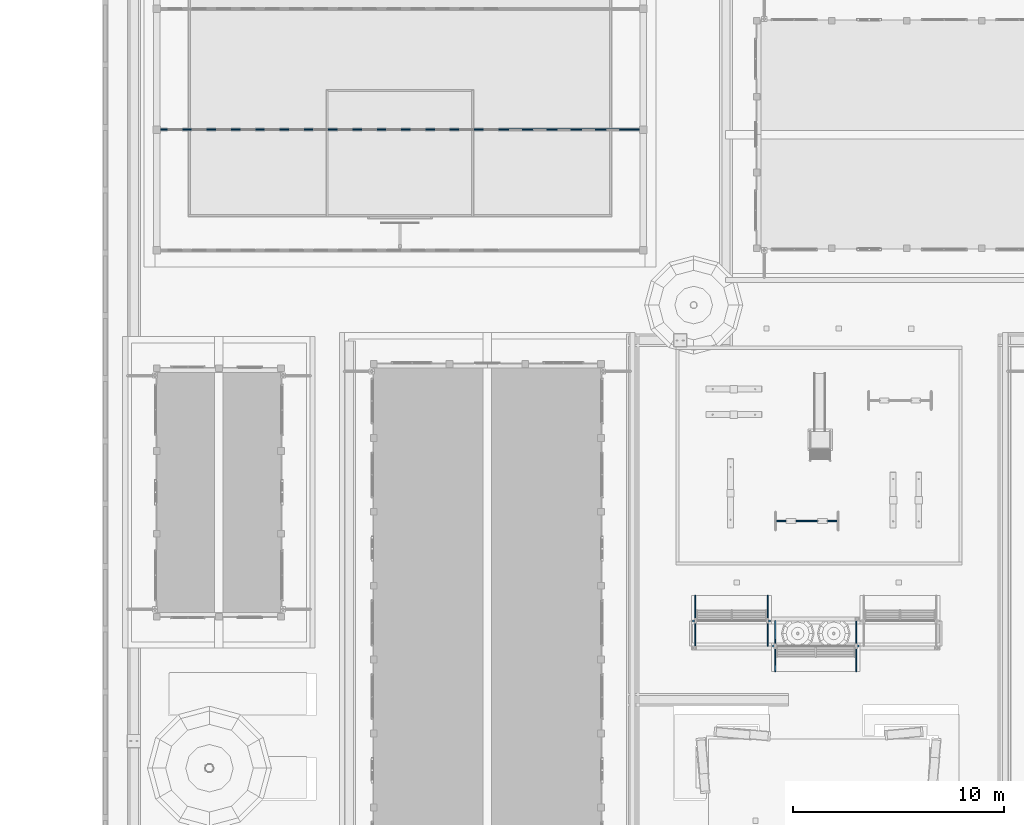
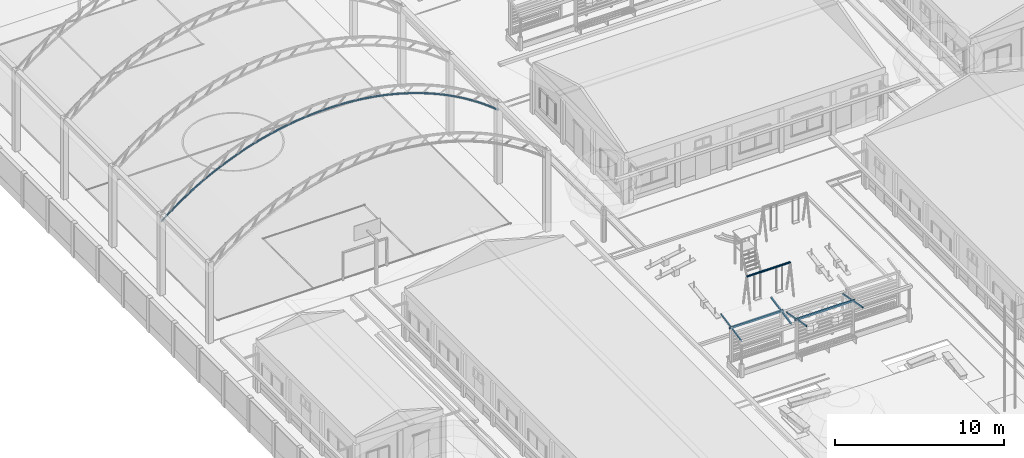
# One storey, part 20 of 177: 8 beams.
"""IFC4 building model written with IfcOpenShell, lengths in metres."""

from ifc_helpers import new_model, si_unit, origin, origin_with_axes, place, context, subcontext, project, spatial, triangles, element, save


model = new_model("IFC4")

# Units and contexts
model_context = context("Model", 3, precision=1e-05, world=origin_with_axes())
body_context = subcontext(model_context, "Body", "Model", "MODEL_VIEW")
ifc_project = project(units=[si_unit("LENGTHUNIT", "METRE"), si_unit("AREAUNIT", "SQUARE_METRE"), si_unit("VOLUMEUNIT", "CUBIC_METRE"), si_unit("PLANEANGLEUNIT", "RADIAN")], contexts=[model_context])

# Site, building, storey
site_placement = place(None, origin_with_axes())
site = spatial("IfcSite", under=ifc_project, at=site_placement, Name="Predio Los Mangos - Morales, San Martín", CompositionType="ELEMENT")
building_placement = place(site_placement, origin())
building = spatial("IfcBuilding", under=site, at=building_placement, Name="Hogar de Refugio Temporal", CompositionType="ELEMENT")
storey_placement = place(building_placement, origin())
storey = spatial("IfcBuildingStorey", under=building, at=storey_placement, Name="NIVEL 1 (NPT +0.00)", CompositionType="ELEMENT", Elevation=0.0)

# Beams
beam_1_placement = place(storey_placement, origin())
element("IfcBeam", 1, at=beam_1_placement, inside=storey, Name="arco", ObjectType="Viga", PredefinedType="BEAM", context=body_context, shape_type="Tessellation", body=[
    triangles([(3.4843, 98.3766, 5.3695), (3.4729, 98.3583, 5.3838), (3.4687, 98.3333, 5.389), (3.4729, 98.3083, 5.3838), (3.4843, 98.29, 5.3695), (3.5, 98.2833, 5.35), (3.5157, 98.29, 5.3305), (3.5271, 98.3083, 5.3162), (3.5313, 98.3333, 5.311), (3.5271, 98.3583, 5.3162), (3.5157, 98.3766, 5.3305), (3.5, 98.3833, 5.35), (4.0622, 98.3766, 5.8339), (4.0511, 98.3583, 5.8484), (4.047, 98.3333, 5.8537), (4.0511, 98.3083, 5.8484), (4.0622, 98.29, 5.8339), (4.0775, 98.2833, 5.8141), (4.0928, 98.29, 5.7943), (4.1039, 98.3083, 5.7798), (4.108, 98.3333, 5.7745), (4.1039, 98.3583, 5.7798), (4.0928, 98.3766, 5.7943), (4.0775, 98.3833, 5.8141), (4.6405, 98.3766, 6.2612), (4.63, 98.3583, 6.2761), (4.6261, 98.3333, 6.2816), (4.63, 98.3083, 6.2761), (4.6405, 98.29, 6.2612), (4.655, 98.2833, 6.2408), (4.6695, 98.29, 6.2204), (4.68, 98.3083, 6.2055), (4.6839, 98.3333, 6.2), (4.68, 98.3583, 6.2055), (4.6695, 98.3766, 6.2204), (4.655, 98.3833, 6.2408), (5.2188, 98.3766, 6.6543), (5.2088, 98.3583, 6.6696), (5.2052, 98.3333, 6.6752), (5.2088, 98.3083, 6.6696), (5.2188, 98.29, 6.6543), (5.2325, 98.2833, 6.6333), (5.2462, 98.29, 6.6124), (5.2562, 98.3083, 6.5971), (5.2598, 98.3333, 6.5915), (5.2562, 98.3583, 6.5971), (5.2462, 98.3766, 6.6124), (5.2325, 98.3833, 6.6333), (5.7971, 98.3766, 7.0157), (5.7877, 98.3583, 7.0314), (5.7843, 98.3333, 7.0372), (5.7877, 98.3083, 7.0314), (5.7971, 98.29, 7.0157), (5.81, 98.2833, 6.9943), (5.8229, 98.29, 6.9729), (5.8323, 98.3083, 6.9572), (5.8357, 98.3333, 6.9514), (5.8323, 98.3583, 6.9572), (5.8229, 98.3766, 6.9729), (5.81, 98.3833, 6.9943), (6.3755, 98.3766, 7.3478), (6.3666, 98.3583, 7.3638), (6.3634, 98.3333, 7.3697), (6.3666, 98.3083, 7.3638), (6.3755, 98.29, 7.3478), (6.3875, 98.2833, 7.3259), (6.3995, 98.29, 7.304), (6.4084, 98.3083, 7.2879), (6.4116, 98.3333, 7.282), (6.4084, 98.3583, 7.2879), (6.3995, 98.3766, 7.304), (6.3875, 98.3833, 7.3259), (6.9538, 98.3766, 7.6522), (6.9455, 98.3583, 7.6685), (6.9425, 98.3333, 7.6745), (6.9455, 98.3083, 7.6685), (6.9538, 98.29, 7.6522), (6.965, 98.2833, 7.6298), (6.9762, 98.29, 7.6075), (6.9845, 98.3083, 7.5912), (6.9875, 98.3333, 7.5852), (6.9845, 98.3583, 7.5912), (6.9762, 98.3766, 7.6075), (6.965, 98.3833, 7.6298), (7.5321, 98.3766, 7.9305), (7.5244, 98.3583, 7.9471), (7.5216, 98.3333, 7.9532), (7.5244, 98.3083, 7.9471), (7.5321, 98.29, 7.9305), (7.5425, 98.2833, 7.9077), (7.5529, 98.29, 7.885), (7.5606, 98.3083, 7.8684), (7.5634, 98.3333, 7.8623), (7.5606, 98.3583, 7.8684), (7.5529, 98.3766, 7.885), (7.5425, 98.3833, 7.9077), (8.1104, 98.3766, 8.184), (8.1033, 98.3583, 8.2009), (8.1007, 98.3333, 8.2071), (8.1033, 98.3083, 8.2009), (8.1104, 98.29, 8.184), (8.12, 98.2833, 8.1609), (8.1296, 98.29, 8.1379), (8.1367, 98.3083, 8.121), (8.1393, 98.3333, 8.1148), (8.1367, 98.3583, 8.121), (8.1296, 98.3766, 8.1379), (8.12, 98.3833, 8.1609), (8.6887, 98.3766, 8.4139), (8.6822, 98.3583, 8.431), (8.6798, 98.3333, 8.4373), (8.6822, 98.3083, 8.431), (8.6887, 98.29, 8.4139), (8.6975, 98.2833, 8.3905), (8.7063, 98.29, 8.3671), (8.7128, 98.3083, 8.35), (8.7152, 98.3333, 8.3437), (8.7128, 98.3583, 8.35), (8.7063, 98.3766, 8.3671), (8.6975, 98.3833, 8.3905), (9.267, 98.3766, 8.6211), (9.2611, 98.3583, 8.6384), (9.2589, 98.3333, 8.6447), (9.2611, 98.3083, 8.6384), (9.267, 98.29, 8.6211), (9.275, 98.2833, 8.5974), (9.283, 98.29, 8.5737), (9.2889, 98.3083, 8.5564), (9.2911, 98.3333, 8.55), (9.2889, 98.3583, 8.5564), (9.283, 98.3766, 8.5737), (9.275, 98.3833, 8.5974), (9.8453, 98.3766, 8.8064), (9.84, 98.3583, 8.8239), (9.838, 98.3333, 8.8303), (9.84, 98.3083, 8.8239), (9.8453, 98.29, 8.8064), (9.8525, 98.2833, 8.7824), (9.8597, 98.29, 8.7585), (9.865, 98.3083, 8.741), (9.867, 98.3333, 8.7346), (9.865, 98.3583, 8.741), (9.8597, 98.3766, 8.7585), (9.8525, 98.3833, 8.7824), (10.4236, 98.3766, 8.9705), (10.4189, 98.3583, 8.9882), (10.4172, 98.3333, 8.9947), (10.4189, 98.3083, 8.9882), (10.4236, 98.29, 8.9705), (10.43, 98.2833, 8.9463), (10.4364, 98.29, 8.9222), (10.4411, 98.3083, 8.9045), (10.4429, 98.3333, 8.898), (10.4411, 98.3583, 8.9045), (10.4364, 98.3766, 8.9222), (10.43, 98.3833, 8.9463), (11.0019, 98.3766, 9.1141), (10.9978, 98.3583, 9.1319), (10.9963, 98.3333, 9.1384), (10.9978, 98.3083, 9.1319), (11.0019, 98.29, 9.1141), (11.0075, 98.2833, 9.0897), (11.0131, 98.29, 9.0653), (11.0172, 98.3083, 9.0475), (11.0187, 98.3333, 9.041), (11.0172, 98.3583, 9.0475), (11.0131, 98.3766, 9.0653), (11.0075, 98.3833, 9.0897), (11.5802, 98.3766, 9.2375), (11.5767, 98.3583, 9.2555), (11.5754, 98.3333, 9.2621), (11.5767, 98.3083, 9.2555), (11.5802, 98.29, 9.2375), (11.585, 98.2833, 9.213), (11.5898, 98.29, 9.1885), (11.5933, 98.3083, 9.1705), (11.5946, 98.3333, 9.1639), (11.5933, 98.3583, 9.1705), (11.5898, 98.3766, 9.1885), (11.585, 98.3833, 9.213), (12.1585, 98.3766, 9.3413), (12.1555, 98.3583, 9.3594), (12.1545, 98.3333, 9.366), (12.1555, 98.3083, 9.3594), (12.1585, 98.29, 9.3413), (12.1625, 98.2833, 9.3166), (12.1665, 98.29, 9.292), (12.1695, 98.3083, 9.2739), (12.1705, 98.3333, 9.2673), (12.1695, 98.3583, 9.2739), (12.1665, 98.3766, 9.292), (12.1625, 98.3833, 9.3166), (12.7368, 98.3766, 9.4258), (12.7344, 98.3583, 9.4439), (12.7336, 98.3333, 9.4506), (12.7344, 98.3083, 9.4439), (12.7368, 98.29, 9.4258), (12.74, 98.2833, 9.401), (12.7432, 98.29, 9.3762), (12.7456, 98.3083, 9.3581), (12.7464, 98.3333, 9.3514), (12.7456, 98.3583, 9.3581), (12.7432, 98.3766, 9.3762), (12.74, 98.3833, 9.401), (13.3151, 98.3766, 9.4912), (13.3133, 98.3583, 9.5094), (13.3127, 98.3333, 9.5161), (13.3133, 98.3083, 9.5094), (13.3151, 98.29, 9.4912), (13.3175, 98.2833, 9.4663), (13.3199, 98.29, 9.4415), (13.3217, 98.3083, 9.4232), (13.3223, 98.3333, 9.4166), (13.3217, 98.3583, 9.4232), (13.3199, 98.3766, 9.4415), (13.3175, 98.3833, 9.4663), (13.8934, 98.3766, 9.5378), (13.8922, 98.3583, 9.5561), (13.8918, 98.3333, 9.5628), (13.8922, 98.3083, 9.5561), (13.8934, 98.29, 9.5378), (13.895, 98.2833, 9.5129), (13.8966, 98.29, 9.4879), (13.8978, 98.3083, 9.4697), (13.8982, 98.3333, 9.463), (13.8978, 98.3583, 9.4697), (13.8966, 98.3766, 9.4879), (13.895, 98.3833, 9.5129), (14.4717, 98.3766, 9.5657), (14.4711, 98.3583, 9.584), (14.4709, 98.3333, 9.5907), (14.4711, 98.3083, 9.584), (14.4717, 98.29, 9.5657), (14.4725, 98.2833, 9.5407), (14.4733, 98.29, 9.5157), (14.4739, 98.3083, 9.4974), (14.4741, 98.3333, 9.4907), (14.4739, 98.3583, 9.4974), (14.4733, 98.3766, 9.5157), (14.4725, 98.3833, 9.5407), (15.05, 98.3766, 9.575), (15.05, 98.3583, 9.5933), (15.05, 98.3333, 9.6), (15.05, 98.3083, 9.5933), (15.05, 98.29, 9.575), (15.05, 98.2833, 9.55), (15.05, 98.29, 9.525), (15.05, 98.3083, 9.5067), (15.05, 98.3333, 9.5), (15.05, 98.3583, 9.5067), (15.05, 98.3766, 9.525), (15.05, 98.3833, 9.55), (15.6283, 98.3766, 9.5657), (15.6289, 98.3583, 9.584), (15.6291, 98.3333, 9.5907), (15.6289, 98.3083, 9.584), (15.6283, 98.29, 9.5657), (15.6275, 98.2833, 9.5407), (15.6267, 98.29, 9.5157), (15.6261, 98.3083, 9.4974), (15.6259, 98.3333, 9.4907), (15.6261, 98.3583, 9.4974), (15.6267, 98.3766, 9.5157), (15.6275, 98.3833, 9.5407), (16.2066, 98.3766, 9.5378), (16.2078, 98.3583, 9.5561), (16.2082, 98.3333, 9.5628), (16.2078, 98.3083, 9.5561), (16.2066, 98.29, 9.5378), (16.205, 98.2833, 9.5129), (16.2034, 98.29, 9.4879), (16.2022, 98.3083, 9.4697), (16.2018, 98.3333, 9.463), (16.2022, 98.3583, 9.4697), (16.2034, 98.3766, 9.4879), (16.205, 98.3833, 9.5129), (16.7849, 98.3766, 9.4912), (16.7867, 98.3583, 9.5094), (16.7873, 98.3333, 9.5161), (16.7867, 98.3083, 9.5094), (16.7849, 98.29, 9.4912), (16.7825, 98.2833, 9.4663), (16.7801, 98.29, 9.4415), (16.7783, 98.3083, 9.4232), (16.7777, 98.3333, 9.4166), (16.7783, 98.3583, 9.4232), (16.7801, 98.3766, 9.4415), (16.7825, 98.3833, 9.4663), (17.3632, 98.3766, 9.4258), (17.3656, 98.3583, 9.4439), (17.3664, 98.3333, 9.4506), (17.3656, 98.3083, 9.4439), (17.3632, 98.29, 9.4258), (17.36, 98.2833, 9.401), (17.3568, 98.29, 9.3762), (17.3544, 98.3083, 9.3581), (17.3536, 98.3333, 9.3514), (17.3544, 98.3583, 9.3581), (17.3568, 98.3766, 9.3762), (17.36, 98.3833, 9.401), (17.9415, 98.3766, 9.3413), (17.9445, 98.3583, 9.3594), (17.9455, 98.3333, 9.366), (17.9445, 98.3083, 9.3594), (17.9415, 98.29, 9.3413), (17.9375, 98.2833, 9.3166), (17.9335, 98.29, 9.292), (17.9305, 98.3083, 9.2739), (17.9295, 98.3333, 9.2673), (17.9305, 98.3583, 9.2739), (17.9335, 98.3766, 9.292), (17.9375, 98.3833, 9.3166), (18.5198, 98.3766, 9.2375), (18.5233, 98.3583, 9.2555), (18.5246, 98.3333, 9.2621), (18.5233, 98.3083, 9.2555), (18.5198, 98.29, 9.2375), (18.515, 98.2833, 9.213), (18.5102, 98.29, 9.1885), (18.5067, 98.3083, 9.1705), (18.5054, 98.3333, 9.1639), (18.5067, 98.3583, 9.1705), (18.5102, 98.3766, 9.1885), (18.515, 98.3833, 9.213), (19.0981, 98.3766, 9.1141), (19.1022, 98.3583, 9.1319), (19.1037, 98.3333, 9.1384), (19.1022, 98.3083, 9.1319), (19.0981, 98.29, 9.1141), (19.0925, 98.2833, 9.0897), (19.0869, 98.29, 9.0653), (19.0828, 98.3083, 9.0475), (19.0813, 98.3333, 9.041), (19.0828, 98.3583, 9.0475), (19.0869, 98.3766, 9.0653), (19.0925, 98.3833, 9.0897), (19.6764, 98.3766, 8.9705), (19.6811, 98.3583, 8.9882), (19.6828, 98.3333, 8.9947), (19.6811, 98.3083, 8.9882), (19.6764, 98.29, 8.9705), (19.67, 98.2833, 8.9463), (19.6636, 98.29, 8.9222), (19.6589, 98.3083, 8.9045), (19.6572, 98.3333, 8.898), (19.6589, 98.3583, 8.9045), (19.6636, 98.3766, 8.9222), (19.67, 98.3833, 8.9463), (20.2547, 98.3766, 8.8064), (20.26, 98.3583, 8.8239), (20.262, 98.3333, 8.8303), (20.26, 98.3083, 8.8239), (20.2547, 98.29, 8.8064), (20.2475, 98.2833, 8.7824), (20.2403, 98.29, 8.7585), (20.235, 98.3083, 8.741), (20.233, 98.3333, 8.7346), (20.235, 98.3583, 8.741), (20.2403, 98.3766, 8.7585), (20.2475, 98.3833, 8.7824), (20.833, 98.3766, 8.6211), (20.8389, 98.3583, 8.6384), (20.8411, 98.3333, 8.6447), (20.8389, 98.3083, 8.6384), (20.833, 98.29, 8.6211), (20.825, 98.2833, 8.5974), (20.817, 98.29, 8.5737), (20.8111, 98.3083, 8.5564), (20.8089, 98.3333, 8.55), (20.8111, 98.3583, 8.5564), (20.817, 98.3766, 8.5737), (20.825, 98.3833, 8.5974), (21.4113, 98.3766, 8.4139), (21.4178, 98.3583, 8.431), (21.4202, 98.3333, 8.4373), (21.4178, 98.3083, 8.431), (21.4113, 98.29, 8.4139), (21.4025, 98.2833, 8.3905), (21.3937, 98.29, 8.3671), (21.3872, 98.3083, 8.35), (21.3848, 98.3333, 8.3437), (21.3872, 98.3583, 8.35), (21.3937, 98.3766, 8.3671), (21.4025, 98.3833, 8.3905), (21.9896, 98.3766, 8.184), (21.9967, 98.3583, 8.2009), (21.9993, 98.3333, 8.2071), (21.9967, 98.3083, 8.2009), (21.9896, 98.29, 8.184), (21.98, 98.2833, 8.1609), (21.9704, 98.29, 8.1379), (21.9633, 98.3083, 8.121), (21.9607, 98.3333, 8.1148), (21.9633, 98.3583, 8.121), (21.9704, 98.3766, 8.1379), (21.98, 98.3833, 8.1609), (22.5679, 98.3766, 7.9305), (22.5756, 98.3583, 7.9471), (22.5784, 98.3333, 7.9532), (22.5756, 98.3083, 7.9471), (22.5679, 98.29, 7.9305), (22.5575, 98.2833, 7.9077), (22.5471, 98.29, 7.885), (22.5394, 98.3083, 7.8684), (22.5366, 98.3333, 7.8623), (22.5394, 98.3583, 7.8684), (22.5471, 98.3766, 7.885), (22.5575, 98.3833, 7.9077), (23.1462, 98.3766, 7.6522), (23.1545, 98.3583, 7.6685), (23.1575, 98.3333, 7.6745), (23.1545, 98.3083, 7.6685), (23.1462, 98.29, 7.6522), (23.135, 98.2833, 7.6298), (23.1238, 98.29, 7.6075), (23.1155, 98.3083, 7.5912), (23.1125, 98.3333, 7.5852), (23.1155, 98.3583, 7.5912), (23.1238, 98.3766, 7.6075), (23.135, 98.3833, 7.6298), (23.7245, 98.3766, 7.3478), (23.7334, 98.3583, 7.3638), (23.7366, 98.3333, 7.3697), (23.7334, 98.3083, 7.3638), (23.7245, 98.29, 7.3478), (23.7125, 98.2833, 7.3259), (23.7005, 98.29, 7.304), (23.6916, 98.3083, 7.2879), (23.6884, 98.3333, 7.282), (23.6916, 98.3583, 7.2879), (23.7005, 98.3766, 7.304), (23.7125, 98.3833, 7.3259), (24.3029, 98.3766, 7.0157), (24.3123, 98.3583, 7.0314), (24.3157, 98.3333, 7.0372), (24.3123, 98.3083, 7.0314), (24.3029, 98.29, 7.0157), (24.29, 98.2833, 6.9943), (24.2771, 98.29, 6.9729), (24.2677, 98.3083, 6.9572), (24.2643, 98.3333, 6.9514), (24.2677, 98.3583, 6.9572), (24.2771, 98.3766, 6.9729), (24.29, 98.3833, 6.9943), (24.8812, 98.3766, 6.6543), (24.8912, 98.3583, 6.6696), (24.8948, 98.3333, 6.6752), (24.8912, 98.3083, 6.6696), (24.8812, 98.29, 6.6543), (24.8675, 98.2833, 6.6333), (24.8538, 98.29, 6.6124), (24.8438, 98.3083, 6.5971), (24.8402, 98.3333, 6.5915), (24.8438, 98.3583, 6.5971), (24.8538, 98.3766, 6.6124), (24.8675, 98.3833, 6.6333), (25.4595, 98.3766, 6.2612), (25.47, 98.3583, 6.2761), (25.4739, 98.3333, 6.2816), (25.47, 98.3083, 6.2761), (25.4595, 98.29, 6.2612), (25.445, 98.2833, 6.2408), (25.4305, 98.29, 6.2204), (25.42, 98.3083, 6.2055), (25.4161, 98.3333, 6.2), (25.42, 98.3583, 6.2055), (25.4305, 98.3766, 6.2204), (25.445, 98.3833, 6.2408), (26.0378, 98.3766, 5.8339), (26.0489, 98.3583, 5.8484), (26.053, 98.3333, 5.8537), (26.0489, 98.3083, 5.8484), (26.0378, 98.29, 5.8339), (26.0225, 98.2833, 5.8141), (26.0072, 98.29, 5.7943), (25.9961, 98.3083, 5.7798), (25.992, 98.3333, 5.7745), (25.9961, 98.3583, 5.7798), (26.0072, 98.3766, 5.7943), (26.0225, 98.3833, 5.8141), (26.6157, 98.3766, 5.3695), (26.6271, 98.3583, 5.3838), (26.6313, 98.3333, 5.389), (26.6271, 98.3083, 5.3838), (26.6157, 98.29, 5.3695), (26.6, 98.2833, 5.35), (26.5843, 98.29, 5.3305), (26.5729, 98.3083, 5.3162), (26.5687, 98.3333, 5.311), (26.5729, 98.3583, 5.3162), (26.5843, 98.3766, 5.3305), (26.6, 98.3833, 5.35)], [[1, 13, 24], [1, 24, 12], [2, 14, 13], [2, 13, 1], [3, 15, 14], [3, 14, 2], [4, 16, 15], [4, 15, 3], [5, 17, 16], [5, 16, 4], [6, 18, 17], [6, 17, 5], [7, 19, 18], [7, 18, 6], [8, 20, 19], [8, 19, 7], [9, 21, 20], [9, 20, 8], [10, 22, 21], [10, 21, 9], [11, 23, 22], [11, 22, 10], [12, 24, 23], [12, 23, 11], [13, 25, 36], [13, 36, 24], [14, 26, 25], [14, 25, 13], [15, 27, 26], [15, 26, 14], [16, 28, 27], [16, 27, 15], [17, 29, 28], [17, 28, 16], [18, 30, 29], [18, 29, 17], [19, 31, 30], [19, 30, 18], [20, 32, 31], [20, 31, 19], [21, 33, 32], [21, 32, 20], [22, 34, 33], [22, 33, 21], [23, 35, 34], [23, 34, 22], [24, 36, 35], [24, 35, 23], [25, 37, 48], [25, 48, 36], [26, 38, 37], [26, 37, 25], [27, 39, 38], [27, 38, 26], [28, 40, 39], [28, 39, 27], [29, 41, 40], [29, 40, 28], [30, 42, 41], [30, 41, 29], [31, 43, 42], [31, 42, 30], [32, 44, 43], [32, 43, 31], [33, 45, 44], [33, 44, 32], [34, 46, 45], [34, 45, 33], [35, 47, 46], [35, 46, 34], [36, 48, 47], [36, 47, 35], [37, 49, 60], [37, 60, 48], [38, 50, 49], [38, 49, 37], [39, 51, 50], [39, 50, 38], [40, 52, 51], [40, 51, 39], [41, 53, 52], [41, 52, 40], [42, 54, 53], [42, 53, 41], [43, 55, 54], [43, 54, 42], [44, 56, 55], [44, 55, 43], [45, 57, 56], [45, 56, 44], [46, 58, 57], [46, 57, 45], [47, 59, 58], [47, 58, 46], [48, 60, 59], [48, 59, 47], [49, 61, 72], [49, 72, 60], [50, 62, 61], [50, 61, 49], [51, 63, 62], [51, 62, 50], [52, 64, 63], [52, 63, 51], [53, 65, 64], [53, 64, 52], [54, 66, 65], [54, 65, 53], [55, 67, 66], [55, 66, 54], [56, 68, 67], [56, 67, 55], [57, 69, 68], [57, 68, 56], [58, 70, 69], [58, 69, 57], [59, 71, 70], [59, 70, 58], [60, 72, 71], [60, 71, 59], [61, 73, 84], [61, 84, 72], [62, 74, 73], [62, 73, 61], [63, 75, 74], [63, 74, 62], [64, 76, 75], [64, 75, 63], [65, 77, 76], [65, 76, 64], [66, 78, 77], [66, 77, 65], [67, 79, 78], [67, 78, 66], [68, 80, 79], [68, 79, 67], [69, 81, 80], [69, 80, 68], [70, 82, 81], [70, 81, 69], [71, 83, 82], [71, 82, 70], [72, 84, 83], [72, 83, 71], [73, 85, 96], [73, 96, 84], [74, 86, 85], [74, 85, 73], [75, 87, 86], [75, 86, 74], [76, 88, 87], [76, 87, 75], [77, 89, 88], [77, 88, 76], [78, 90, 89], [78, 89, 77], [79, 91, 90], [79, 90, 78], [80, 92, 91], [80, 91, 79], [81, 93, 92], [81, 92, 80], [82, 94, 93], [82, 93, 81], [83, 95, 94], [83, 94, 82], [84, 96, 95], [84, 95, 83], [85, 97, 108], [85, 108, 96], [86, 98, 97], [86, 97, 85], [87, 99, 98], [87, 98, 86], [88, 100, 99], [88, 99, 87], [89, 101, 100], [89, 100, 88], [90, 102, 101], [90, 101, 89], [91, 103, 102], [91, 102, 90], [92, 104, 103], [92, 103, 91], [93, 105, 104], [93, 104, 92], [94, 106, 105], [94, 105, 93], [95, 107, 106], [95, 106, 94], [96, 108, 107], [96, 107, 95], [97, 109, 120], [97, 120, 108], [98, 110, 109], [98, 109, 97], [99, 111, 110], [99, 110, 98], [100, 112, 111], [100, 111, 99], [101, 113, 112], [101, 112, 100], [102, 114, 113], [102, 113, 101], [103, 115, 114], [103, 114, 102], [104, 116, 115], [104, 115, 103], [105, 117, 116], [105, 116, 104], [106, 118, 117], [106, 117, 105], [107, 119, 118], [107, 118, 106], [108, 120, 119], [108, 119, 107], [109, 121, 132], [109, 132, 120], [110, 122, 121], [110, 121, 109], [111, 123, 122], [111, 122, 110], [112, 124, 123], [112, 123, 111], [113, 125, 124], [113, 124, 112], [114, 126, 125], [114, 125, 113], [115, 127, 126], [115, 126, 114], [116, 128, 127], [116, 127, 115], [117, 129, 128], [117, 128, 116], [118, 130, 129], [118, 129, 117], [119, 131, 130], [119, 130, 118], [120, 132, 131], [120, 131, 119], [121, 133, 144], [121, 144, 132], [122, 134, 133], [122, 133, 121], [123, 135, 134], [123, 134, 122], [124, 136, 135], [124, 135, 123], [125, 137, 136], [125, 136, 124], [126, 138, 137], [126, 137, 125], [127, 139, 138], [127, 138, 126], [128, 140, 139], [128, 139, 127], [129, 141, 140], [129, 140, 128], [130, 142, 141], [130, 141, 129], [131, 143, 142], [131, 142, 130], [132, 144, 143], [132, 143, 131], [133, 145, 156], [133, 156, 144], [134, 146, 145], [134, 145, 133], [135, 147, 146], [135, 146, 134], [136, 148, 147], [136, 147, 135], [137, 149, 148], [137, 148, 136], [138, 150, 149], [138, 149, 137], [139, 151, 150], [139, 150, 138], [140, 152, 151], [140, 151, 139], [141, 153, 152], [141, 152, 140], [142, 154, 153], [142, 153, 141], [143, 155, 154], [143, 154, 142], [144, 156, 155], [144, 155, 143], [145, 157, 168], [145, 168, 156], [146, 158, 157], [146, 157, 145], [147, 159, 158], [147, 158, 146], [148, 160, 159], [148, 159, 147], [149, 161, 160], [149, 160, 148], [150, 162, 161], [150, 161, 149], [151, 163, 162], [151, 162, 150], [152, 164, 163], [152, 163, 151], [153, 165, 164], [153, 164, 152], [154, 166, 165], [154, 165, 153], [155, 167, 166], [155, 166, 154], [156, 168, 167], [156, 167, 155], [157, 169, 180], [157, 180, 168], [158, 170, 169], [158, 169, 157], [159, 171, 170], [159, 170, 158], [160, 172, 171], [160, 171, 159], [161, 173, 172], [161, 172, 160], [162, 174, 173], [162, 173, 161], [163, 175, 174], [163, 174, 162], [164, 176, 175], [164, 175, 163], [165, 177, 176], [165, 176, 164], [166, 178, 177], [166, 177, 165], [167, 179, 178], [167, 178, 166], [168, 180, 179], [168, 179, 167], [169, 181, 192], [169, 192, 180], [170, 182, 181], [170, 181, 169], [171, 183, 182], [171, 182, 170], [172, 184, 183], [172, 183, 171], [173, 185, 184], [173, 184, 172], [174, 186, 185], [174, 185, 173], [175, 187, 186], [175, 186, 174], [176, 188, 187], [176, 187, 175], [177, 189, 188], [177, 188, 176], [178, 190, 189], [178, 189, 177], [179, 191, 190], [179, 190, 178], [180, 192, 191], [180, 191, 179], [181, 193, 204], [181, 204, 192], [182, 194, 193], [182, 193, 181], [183, 195, 194], [183, 194, 182], [184, 196, 195], [184, 195, 183], [185, 197, 196], [185, 196, 184], [186, 198, 197], [186, 197, 185], [187, 199, 198], [187, 198, 186], [188, 200, 199], [188, 199, 187], [189, 201, 200], [189, 200, 188], [190, 202, 201], [190, 201, 189], [191, 203, 202], [191, 202, 190], [192, 204, 203], [192, 203, 191], [193, 205, 216], [193, 216, 204], [194, 206, 205], [194, 205, 193], [195, 207, 206], [195, 206, 194], [196, 208, 207], [196, 207, 195], [197, 209, 208], [197, 208, 196], [198, 210, 209], [198, 209, 197], [199, 211, 210], [199, 210, 198], [200, 212, 211], [200, 211, 199], [201, 213, 212], [201, 212, 200], [202, 214, 213], [202, 213, 201], [203, 215, 214], [203, 214, 202], [204, 216, 215], [204, 215, 203], [205, 217, 228], [205, 228, 216], [206, 218, 217], [206, 217, 205], [207, 219, 218], [207, 218, 206], [208, 220, 219], [208, 219, 207], [209, 221, 220], [209, 220, 208], [210, 222, 221], [210, 221, 209], [211, 223, 222], [211, 222, 210], [212, 224, 223], [212, 223, 211], [213, 225, 224], [213, 224, 212], [214, 226, 225], [214, 225, 213], [215, 227, 226], [215, 226, 214], [216, 228, 227], [216, 227, 215], [217, 229, 240], [217, 240, 228], [218, 230, 229], [218, 229, 217], [219, 231, 230], [219, 230, 218], [220, 232, 231], [220, 231, 219], [221, 233, 232], [221, 232, 220], [222, 234, 233], [222, 233, 221], [223, 235, 234], [223, 234, 222], [224, 236, 235], [224, 235, 223], [225, 237, 236], [225, 236, 224], [226, 238, 237], [226, 237, 225], [227, 239, 238], [227, 238, 226], [228, 240, 239], [228, 239, 227], [229, 241, 252], [229, 252, 240], [230, 242, 241], [230, 241, 229], [231, 243, 242], [231, 242, 230], [232, 244, 243], [232, 243, 231], [233, 245, 244], [233, 244, 232], [234, 246, 245], [234, 245, 233], [235, 247, 246], [235, 246, 234], [236, 248, 247], [236, 247, 235], [237, 249, 248], [237, 248, 236], [238, 250, 249], [238, 249, 237], [239, 251, 250], [239, 250, 238], [240, 252, 251], [240, 251, 239], [241, 253, 264], [241, 264, 252], [242, 254, 253], [242, 253, 241], [243, 255, 254], [243, 254, 242], [244, 256, 255], [244, 255, 243], [245, 257, 256], [245, 256, 244], [246, 258, 257], [246, 257, 245], [247, 259, 258], [247, 258, 246], [248, 260, 259], [248, 259, 247], [249, 261, 260], [249, 260, 248], [250, 262, 261], [250, 261, 249], [251, 263, 262], [251, 262, 250], [252, 264, 263], [252, 263, 251], [253, 265, 276], [253, 276, 264], [254, 266, 265], [254, 265, 253], [255, 267, 266], [255, 266, 254], [256, 268, 267], [256, 267, 255], [257, 269, 268], [257, 268, 256], [258, 270, 269], [258, 269, 257], [259, 271, 270], [259, 270, 258], [260, 272, 271], [260, 271, 259], [261, 273, 272], [261, 272, 260], [262, 274, 273], [262, 273, 261], [263, 275, 274], [263, 274, 262], [264, 276, 275], [264, 275, 263], [265, 277, 288], [265, 288, 276], [266, 278, 277], [266, 277, 265], [267, 279, 278], [267, 278, 266], [268, 280, 279], [268, 279, 267], [269, 281, 280], [269, 280, 268], [270, 282, 281], [270, 281, 269], [271, 283, 282], [271, 282, 270], [272, 284, 283], [272, 283, 271], [273, 285, 284], [273, 284, 272], [274, 286, 285], [274, 285, 273], [275, 287, 286], [275, 286, 274], [276, 288, 287], [276, 287, 275], [277, 289, 300], [277, 300, 288], [278, 290, 289], [278, 289, 277], [279, 291, 290], [279, 290, 278], [280, 292, 291], [280, 291, 279], [281, 293, 292], [281, 292, 280], [282, 294, 293], [282, 293, 281], [283, 295, 294], [283, 294, 282], [284, 296, 295], [284, 295, 283], [285, 297, 296], [285, 296, 284], [286, 298, 297], [286, 297, 285], [287, 299, 298], [287, 298, 286], [288, 300, 299], [288, 299, 287], [289, 301, 312], [289, 312, 300], [290, 302, 301], [290, 301, 289], [291, 303, 302], [291, 302, 290], [292, 304, 303], [292, 303, 291], [293, 305, 304], [293, 304, 292], [294, 306, 305], [294, 305, 293], [295, 307, 306], [295, 306, 294], [296, 308, 307], [296, 307, 295], [297, 309, 308], [297, 308, 296], [298, 310, 309], [298, 309, 297], [299, 311, 310], [299, 310, 298], [300, 312, 311], [300, 311, 299], [301, 313, 324], [301, 324, 312], [302, 314, 313], [302, 313, 301], [303, 315, 314], [303, 314, 302], [304, 316, 315], [304, 315, 303], [305, 317, 316], [305, 316, 304], [306, 318, 317], [306, 317, 305], [307, 319, 318], [307, 318, 306], [308, 320, 319], [308, 319, 307], [309, 321, 320], [309, 320, 308], [310, 322, 321], [310, 321, 309], [311, 323, 322], [311, 322, 310], [312, 324, 323], [312, 323, 311], [313, 325, 336], [313, 336, 324], [314, 326, 325], [314, 325, 313], [315, 327, 326], [315, 326, 314], [316, 328, 327], [316, 327, 315], [317, 329, 328], [317, 328, 316], [318, 330, 329], [318, 329, 317], [319, 331, 330], [319, 330, 318], [320, 332, 331], [320, 331, 319], [321, 333, 332], [321, 332, 320], [322, 334, 333], [322, 333, 321], [323, 335, 334], [323, 334, 322], [324, 336, 335], [324, 335, 323], [325, 337, 348], [325, 348, 336], [326, 338, 337], [326, 337, 325], [327, 339, 338], [327, 338, 326], [328, 340, 339], [328, 339, 327], [329, 341, 340], [329, 340, 328], [330, 342, 341], [330, 341, 329], [331, 343, 342], [331, 342, 330], [332, 344, 343], [332, 343, 331], [333, 345, 344], [333, 344, 332], [334, 346, 345], [334, 345, 333], [335, 347, 346], [335, 346, 334], [336, 348, 347], [336, 347, 335], [337, 349, 360], [337, 360, 348], [338, 350, 349], [338, 349, 337], [339, 351, 350], [339, 350, 338], [340, 352, 351], [340, 351, 339], [341, 353, 352], [341, 352, 340], [342, 354, 353], [342, 353, 341], [343, 355, 354], [343, 354, 342], [344, 356, 355], [344, 355, 343], [345, 357, 356], [345, 356, 344], [346, 358, 357], [346, 357, 345], [347, 359, 358], [347, 358, 346], [348, 360, 359], [348, 359, 347], [349, 361, 372], [349, 372, 360], [350, 362, 361], [350, 361, 349], [351, 363, 362], [351, 362, 350], [352, 364, 363], [352, 363, 351], [353, 365, 364], [353, 364, 352], [354, 366, 365], [354, 365, 353], [355, 367, 366], [355, 366, 354], [356, 368, 367], [356, 367, 355], [357, 369, 368], [357, 368, 356], [358, 370, 369], [358, 369, 357], [359, 371, 370], [359, 370, 358], [360, 372, 371], [360, 371, 359], [361, 373, 384], [361, 384, 372], [362, 374, 373], [362, 373, 361], [363, 375, 374], [363, 374, 362], [364, 376, 375], [364, 375, 363], [365, 377, 376], [365, 376, 364], [366, 378, 377], [366, 377, 365], [367, 379, 378], [367, 378, 366], [368, 380, 379], [368, 379, 367], [369, 381, 380], [369, 380, 368], [370, 382, 381], [370, 381, 369], [371, 383, 382], [371, 382, 370], [372, 384, 383], [372, 383, 371], [373, 385, 396], [373, 396, 384], [374, 386, 385], [374, 385, 373], [375, 387, 386], [375, 386, 374], [376, 388, 387], [376, 387, 375], [377, 389, 388], [377, 388, 376], [378, 390, 389], [378, 389, 377], [379, 391, 390], [379, 390, 378], [380, 392, 391], [380, 391, 379], [381, 393, 392], [381, 392, 380], [382, 394, 393], [382, 393, 381], [383, 395, 394], [383, 394, 382], [384, 396, 395], [384, 395, 383], [385, 397, 408], [385, 408, 396], [386, 398, 397], [386, 397, 385], [387, 399, 398], [387, 398, 386], [388, 400, 399], [388, 399, 387], [389, 401, 400], [389, 400, 388], [390, 402, 401], [390, 401, 389], [391, 403, 402], [391, 402, 390], [392, 404, 403], [392, 403, 391], [393, 405, 404], [393, 404, 392], [394, 406, 405], [394, 405, 393], [395, 407, 406], [395, 406, 394], [396, 408, 407], [396, 407, 395], [397, 409, 420], [397, 420, 408], [398, 410, 409], [398, 409, 397], [399, 411, 410], [399, 410, 398], [400, 412, 411], [400, 411, 399], [401, 413, 412], [401, 412, 400], [402, 414, 413], [402, 413, 401], [403, 415, 414], [403, 414, 402], [404, 416, 415], [404, 415, 403], [405, 417, 416], [405, 416, 404], [406, 418, 417], [406, 417, 405], [407, 419, 418], [407, 418, 406], [408, 420, 419], [408, 419, 407], [409, 421, 432], [409, 432, 420], [410, 422, 421], [410, 421, 409], [411, 423, 422], [411, 422, 410], [412, 424, 423], [412, 423, 411], [413, 425, 424], [413, 424, 412], [414, 426, 425], [414, 425, 413], [415, 427, 426], [415, 426, 414], [416, 428, 427], [416, 427, 415], [417, 429, 428], [417, 428, 416], [418, 430, 429], [418, 429, 417], [419, 431, 430], [419, 430, 418], [420, 432, 431], [420, 431, 419], [421, 433, 444], [421, 444, 432], [422, 434, 433], [422, 433, 421], [423, 435, 434], [423, 434, 422], [424, 436, 435], [424, 435, 423], [425, 437, 436], [425, 436, 424], [426, 438, 437], [426, 437, 425], [427, 439, 438], [427, 438, 426], [428, 440, 439], [428, 439, 427], [429, 441, 440], [429, 440, 428], [430, 442, 441], [430, 441, 429], [431, 443, 442], [431, 442, 430], [432, 444, 443], [432, 443, 431], [433, 445, 456], [433, 456, 444], [434, 446, 445], [434, 445, 433], [435, 447, 446], [435, 446, 434], [436, 448, 447], [436, 447, 435], [437, 449, 448], [437, 448, 436], [438, 450, 449], [438, 449, 437], [439, 451, 450], [439, 450, 438], [440, 452, 451], [440, 451, 439], [441, 453, 452], [441, 452, 440], [442, 454, 453], [442, 453, 441], [443, 455, 454], [443, 454, 442], [444, 456, 455], [444, 455, 443], [445, 457, 468], [445, 468, 456], [446, 458, 457], [446, 457, 445], [447, 459, 458], [447, 458, 446], [448, 460, 459], [448, 459, 447], [449, 461, 460], [449, 460, 448], [450, 462, 461], [450, 461, 449], [451, 463, 462], [451, 462, 450], [452, 464, 463], [452, 463, 451], [453, 465, 464], [453, 464, 452], [454, 466, 465], [454, 465, 453], [455, 467, 466], [455, 466, 454], [456, 468, 467], [456, 467, 455], [457, 469, 480], [457, 480, 468], [458, 470, 469], [458, 469, 457], [459, 471, 470], [459, 470, 458], [460, 472, 471], [460, 471, 459], [461, 473, 472], [461, 472, 460], [462, 474, 473], [462, 473, 461], [463, 475, 474], [463, 474, 462], [464, 476, 475], [464, 475, 463], [465, 477, 476], [465, 476, 464], [466, 478, 477], [466, 477, 465], [467, 479, 478], [467, 478, 466], [468, 480, 479], [468, 479, 467], [469, 481, 492], [469, 492, 480], [470, 482, 481], [470, 481, 469], [471, 483, 482], [471, 482, 470], [472, 484, 483], [472, 483, 471], [473, 485, 484], [473, 484, 472], [474, 486, 485], [474, 485, 473], [475, 487, 486], [475, 486, 474], [476, 488, 487], [476, 487, 475], [477, 489, 488], [477, 488, 476], [478, 490, 489], [478, 489, 477], [479, 491, 490], [479, 490, 478], [480, 492, 491], [480, 491, 479]]),
])
beam_2_placement = place(storey_placement, origin())
element("IfcBeam", 2, at=beam_2_placement, inside=storey, Name="columpio_viga", ObjectType="Viga", PredefinedType="BEAM", context=body_context, shape_type="Tessellation", body=[
    triangles([(32.885, 79.744, 2.4), (35.86, 79.744, 2.4), (32.885, 79.769, 2.3933), (35.86, 79.769, 2.3933), (32.885, 79.7873, 2.375), (35.86, 79.7873, 2.375), (32.885, 79.794, 2.35), (35.86, 79.794, 2.35), (32.885, 79.7873, 2.325), (35.86, 79.7873, 2.325), (32.885, 79.769, 2.3067), (35.86, 79.769, 2.3067), (32.885, 79.744, 2.3), (35.86, 79.744, 2.3), (32.885, 79.719, 2.3067), (35.86, 79.719, 2.3067), (32.885, 79.7007, 2.325), (35.86, 79.7007, 2.325), (32.885, 79.694, 2.35), (35.86, 79.694, 2.35), (32.885, 79.7007, 2.375), (35.86, 79.7007, 2.375), (32.885, 79.719, 2.3933), (35.86, 79.719, 2.3933)], [[1, 2, 4], [1, 4, 3], [3, 4, 6], [3, 6, 5], [5, 6, 8], [5, 8, 7], [7, 8, 10], [7, 10, 9], [9, 10, 12], [9, 12, 11], [11, 12, 14], [11, 14, 13], [13, 14, 16], [13, 16, 15], [15, 16, 18], [15, 18, 17], [17, 18, 20], [17, 20, 19], [19, 20, 22], [19, 22, 21], [6, 4, 2], [2, 24, 22], [22, 20, 18], [18, 16, 14], [14, 12, 10], [10, 8, 6], [6, 2, 22], [22, 18, 14], [14, 10, 6], [22, 14, 6], [21, 22, 24], [21, 24, 23], [23, 24, 2], [23, 2, 1], [23, 1, 3], [3, 5, 7], [7, 9, 11], [11, 13, 15], [15, 17, 19], [19, 21, 23], [23, 3, 7], [7, 11, 15], [15, 19, 23], [7, 15, 23]]),
])
beam_3_placement = place(storey_placement, origin())
element("IfcBeam", 3, at=beam_3_placement, inside=storey, Name="oc01_viga", ObjectType="Viga", PredefinedType="BEAM", context=body_context, shape_type="Tessellation", body=[
    triangles([(36.855, 73.85, 2.81), (32.745, 73.85, 2.81), (32.745, 73.75, 2.81), (36.855, 73.75, 2.81), (36.855, 73.85, 2.93), (32.745, 73.85, 2.93), (32.745, 73.75, 2.93), (36.855, 73.75, 2.93)], [[1, 4, 3], [1, 3, 2], [5, 6, 7], [5, 7, 8], [1, 2, 6], [1, 6, 5], [2, 3, 7], [2, 7, 6], [3, 4, 8], [3, 8, 7], [4, 1, 5], [4, 5, 8]]),
])
beam_4_placement = place(storey_placement, origin())
element("IfcBeam", 4, at=beam_4_placement, inside=storey, Name="oc01_correa", ObjectType="Viga", PredefinedType="BEAM", context=body_context, shape_type="Tessellation", body=[
    triangles([(36.7, 74.9906, 2.5909), (36.7, 72.5906, 3.0509), (36.75, 72.5906, 3.0509), (36.75, 74.9906, 2.5909), (36.7, 75.0094, 2.6891), (36.7, 72.6094, 3.1491), (36.75, 72.6094, 3.1491), (36.75, 75.0094, 2.6891)], [[1, 4, 3], [1, 3, 2], [5, 6, 7], [5, 7, 8], [1, 2, 6], [1, 6, 5], [2, 3, 7], [2, 7, 6], [3, 4, 8], [3, 8, 7], [4, 1, 5], [4, 5, 8]]),
])
beam_5_placement = place(storey_placement, origin())
element("IfcBeam", 5, at=beam_5_placement, inside=storey, Name="oc01_correa", ObjectType="Viga", PredefinedType="BEAM", context=body_context, shape_type="Tessellation", body=[
    triangles([(32.85, 74.9906, 2.5909), (32.85, 72.5906, 3.0509), (32.9, 72.5906, 3.0509), (32.9, 74.9906, 2.5909), (32.85, 75.0094, 2.6891), (32.85, 72.6094, 3.1491), (32.9, 72.6094, 3.1491), (32.9, 75.0094, 2.6891)], [[1, 4, 3], [1, 3, 2], [5, 6, 7], [5, 7, 8], [1, 2, 6], [1, 6, 5], [2, 3, 7], [2, 7, 6], [3, 4, 8], [3, 8, 7], [4, 1, 5], [4, 5, 8]]),
])
beam_6_placement = place(storey_placement, origin())
element("IfcBeam", 6, at=beam_6_placement, inside=storey, Name="oc01_viga", ObjectType="Viga", PredefinedType="BEAM", context=body_context, shape_type="Tessellation", body=[
    triangles([(32.645, 75.05, 2.81), (28.955, 75.05, 2.81), (28.955, 74.95, 2.81), (32.645, 74.95, 2.81), (32.645, 75.05, 2.93), (28.955, 75.05, 2.93), (28.955, 74.95, 2.93), (32.645, 74.95, 2.93)], [[1, 4, 3], [1, 3, 2], [5, 6, 7], [5, 7, 8], [1, 2, 6], [1, 6, 5], [2, 3, 7], [2, 7, 6], [3, 4, 8], [3, 8, 7], [4, 1, 5], [4, 5, 8]]),
])
beam_7_placement = place(storey_placement, origin())
element("IfcBeam", 7, at=beam_7_placement, inside=storey, Name="oc01_correa", ObjectType="Viga", PredefinedType="BEAM", context=body_context, shape_type="Tessellation", body=[
    triangles([(32.54, 73.8094, 2.5909), (32.54, 76.2094, 3.0509), (32.49, 76.2094, 3.0509), (32.49, 73.8094, 2.5909), (32.54, 73.7906, 2.6891), (32.54, 76.1906, 3.1491), (32.49, 76.1906, 3.1491), (32.49, 73.7906, 2.6891)], [[1, 4, 3], [1, 3, 2], [5, 6, 7], [5, 7, 8], [1, 2, 6], [1, 6, 5], [2, 3, 7], [2, 7, 6], [3, 4, 8], [3, 8, 7], [4, 1, 5], [4, 5, 8]]),
])
beam_8_placement = place(storey_placement, origin())
element("IfcBeam", 8, at=beam_8_placement, inside=storey, Name="oc01_correa", ObjectType="Viga", PredefinedType="BEAM", context=body_context, shape_type="Tessellation", body=[
    triangles([(29.11, 73.8094, 2.5909), (29.11, 76.2094, 3.0509), (29.06, 76.2094, 3.0509), (29.06, 73.8094, 2.5909), (29.11, 73.7906, 2.6891), (29.11, 76.1906, 3.1491), (29.06, 76.1906, 3.1491), (29.06, 73.7906, 2.6891)], [[1, 4, 3], [1, 3, 2], [5, 6, 7], [5, 7, 8], [1, 2, 6], [1, 6, 5], [2, 3, 7], [2, 7, 6], [3, 4, 8], [3, 8, 7], [4, 1, 5], [4, 5, 8]]),
])

save(model, "model.ifc")
